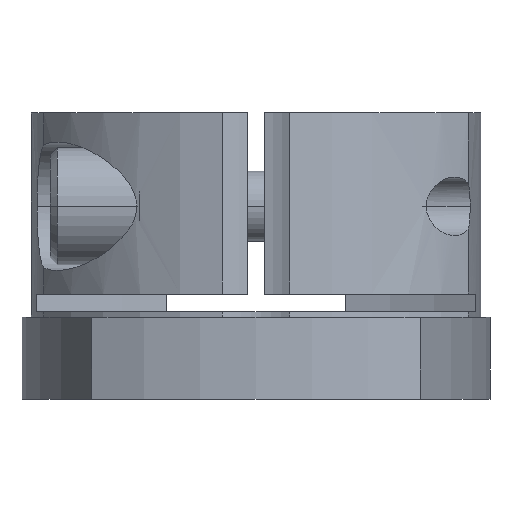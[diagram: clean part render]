
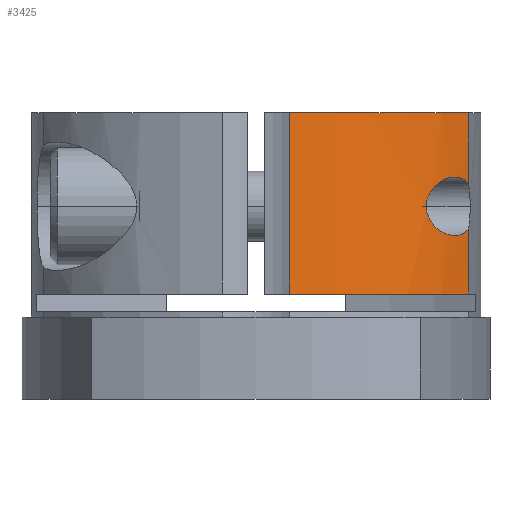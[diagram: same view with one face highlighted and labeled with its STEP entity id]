
A CAD part, front view. The second image highlights one B-rep face of the part: STEP entity #3425.
In plain terms, the highlighted cylindrical face has radius 22 mm (diameter 44 mm), a partial arc.
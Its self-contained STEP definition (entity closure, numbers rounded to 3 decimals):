
#801=CARTESIAN_POINT('',(18.151,-12.431,14.946));
#802=VERTEX_POINT('',#801);
#818=CARTESIAN_POINT('',(14.552,-16.5,13.0));
#819=VERTEX_POINT('',#818);
#820=CARTESIAN_POINT('',(14.552,-16.5,13.0));
#821=CARTESIAN_POINT('',(14.552,-16.5,13.158));
#822=CARTESIAN_POINT('',(14.569,-16.485,13.318));
#823=CARTESIAN_POINT('',(14.636,-16.425,13.628));
#824=CARTESIAN_POINT('',(14.687,-16.38,13.78));
#825=CARTESIAN_POINT('',(14.812,-16.267,14.065));
#826=CARTESIAN_POINT('',(14.887,-16.199,14.199));
#827=CARTESIAN_POINT('',(15.051,-16.046,14.443));
#828=CARTESIAN_POINT('',(15.14,-15.962,14.554));
#829=CARTESIAN_POINT('',(15.477,-15.639,14.922));
#830=CARTESIAN_POINT('',(15.775,-15.341,15.139));
#831=CARTESIAN_POINT('',(16.23,-14.853,15.357));
#832=CARTESIAN_POINT('',(16.384,-14.684,15.411));
#833=CARTESIAN_POINT('',(16.685,-14.341,15.483));
#834=CARTESIAN_POINT('',(16.832,-14.168,15.5));
#835=CARTESIAN_POINT('',(17.096,-13.847,15.5));
#836=CARTESIAN_POINT('',(17.225,-13.687,15.486));
#837=CARTESIAN_POINT('',(17.479,-13.361,15.423));
#838=CARTESIAN_POINT('',(17.604,-13.196,15.374));
#839=CARTESIAN_POINT('',(17.841,-12.874,15.239));
#840=CARTESIAN_POINT('',(17.953,-12.717,15.153));
#841=CARTESIAN_POINT('',(18.088,-12.523,15.018));
#842=CARTESIAN_POINT('',(18.12,-12.476,14.983));
#843=CARTESIAN_POINT('',(18.151,-12.431,14.946));
#844=B_SPLINE_CURVE_WITH_KNOTS('',3,(#820,#821,#822,#823,#824,#825,#826,#827,#828,#829,#830,#831,#832,#833,#834,#835,#836,#837,#838,#839,#840,#841,#842,#843),.UNSPECIFIED.,.F.,.U.,(4,2,2,2,2,2,2,2,2,2,2,4),(8.745,9.219,9.693,10.167,10.641,11.952,12.607,13.262,13.856,14.449,15.043,15.234),.UNSPECIFIED.);
#845=EDGE_CURVE('',#819,#802,#844,.T.);
#2433=CARTESIAN_POINT('',(18.151,-12.431,11.054));
#2434=VERTEX_POINT('',#2433);
#2435=CARTESIAN_POINT('',(18.151,-12.431,11.054));
#2436=CARTESIAN_POINT('',(18.12,-12.476,11.017));
#2437=CARTESIAN_POINT('',(18.088,-12.523,10.982));
#2438=CARTESIAN_POINT('',(17.953,-12.717,10.847));
#2439=CARTESIAN_POINT('',(17.841,-12.874,10.761));
#2440=CARTESIAN_POINT('',(17.604,-13.196,10.626));
#2441=CARTESIAN_POINT('',(17.479,-13.361,10.577));
#2442=CARTESIAN_POINT('',(17.225,-13.687,10.514));
#2443=CARTESIAN_POINT('',(17.096,-13.847,10.5));
#2444=CARTESIAN_POINT('',(16.832,-14.168,10.5));
#2445=CARTESIAN_POINT('',(16.685,-14.341,10.517));
#2446=CARTESIAN_POINT('',(16.384,-14.684,10.589));
#2447=CARTESIAN_POINT('',(16.23,-14.853,10.643));
#2448=CARTESIAN_POINT('',(15.775,-15.341,10.861));
#2449=CARTESIAN_POINT('',(15.477,-15.639,11.078));
#2450=CARTESIAN_POINT('',(15.14,-15.962,11.446));
#2451=CARTESIAN_POINT('',(15.051,-16.046,11.557));
#2452=CARTESIAN_POINT('',(14.887,-16.199,11.801));
#2453=CARTESIAN_POINT('',(14.812,-16.267,11.935));
#2454=CARTESIAN_POINT('',(14.687,-16.38,12.22));
#2455=CARTESIAN_POINT('',(14.636,-16.425,12.372));
#2456=CARTESIAN_POINT('',(14.569,-16.485,12.682));
#2457=CARTESIAN_POINT('',(14.552,-16.5,12.842));
#2458=CARTESIAN_POINT('',(14.552,-16.5,13.0));
#2459=B_SPLINE_CURVE_WITH_KNOTS('',3,(#2435,#2436,#2437,#2438,#2439,#2440,#2441,#2442,#2443,#2444,#2445,#2446,#2447,#2448,#2449,#2450,#2451,#2452,#2453,#2454,#2455,#2456,#2457,#2458),.UNSPECIFIED.,.F.,.U.,(4,2,2,2,2,2,2,2,2,2,2,4),(2.255,2.447,3.04,3.634,4.227,4.882,5.537,6.848,7.322,7.796,8.27,8.745),.UNSPECIFIED.);
#2460=EDGE_CURVE('',#2434,#819,#2459,.T.);
#2547=CARTESIAN_POINT('',(18.151,-12.431,21.0));
#2548=VERTEX_POINT('',#2547);
#2556=CARTESIAN_POINT('',(18.151,-12.431,14.946));
#2557=DIRECTION('',(0.0,0.0,1.0));
#2558=VECTOR('',#2557,6.054);
#2559=LINE('',#2556,#2558);
#2560=EDGE_CURVE('',#802,#2548,#2559,.T.);
#2564=CARTESIAN_POINT('',(18.151,-12.431,5.5));
#2565=VERTEX_POINT('',#2564);
#2566=CARTESIAN_POINT('',(18.151,-12.431,5.5));
#2567=DIRECTION('',(0.0,0.0,1.0));
#2568=VECTOR('',#2567,5.554);
#2569=LINE('',#2566,#2568);
#2570=EDGE_CURVE('',#2565,#2434,#2569,.T.);
#2786=CARTESIAN_POINT('',(2.875,-21.811,21.0));
#2787=VERTEX_POINT('',#2786);
#2788=CARTESIAN_POINT('',(2.875,-21.811,5.5));
#2789=VERTEX_POINT('',#2788);
#2790=CARTESIAN_POINT('',(2.875,-21.811,21.0));
#2791=DIRECTION('',(0.0,0.0,-1.0));
#2792=VECTOR('',#2791,15.5);
#2793=LINE('',#2790,#2792);
#2794=EDGE_CURVE('',#2787,#2789,#2793,.T.);
#3172=CARTESIAN_POINT('',(0.,0.,21.0));
#3173=DIRECTION('',(0.0,0.0,-1.0));
#3174=DIRECTION('',(1.0,0.0,0.0));
#3175=AXIS2_PLACEMENT_3D('',#3172,#3173,#3174);
#3176=CIRCLE('',#3175,22.);
#3177=EDGE_CURVE('',#2548,#2787,#3176,.T.);
#3405=CARTESIAN_POINT('',(0.,0.,-3.5));
#3406=DIRECTION('',(0.0,0.0,1.0));
#3407=DIRECTION('',(1.0,0.0,0.0));
#3408=AXIS2_PLACEMENT_3D('',#3405,#3406,#3407);
#3409=CYLINDRICAL_SURFACE('',#3408,22.);
#3410=ORIENTED_EDGE('',*,*,#2460,.T.);
#3411=ORIENTED_EDGE('',*,*,#845,.T.);
#3412=ORIENTED_EDGE('',*,*,#2560,.T.);
#3413=ORIENTED_EDGE('',*,*,#3177,.T.);
#3414=ORIENTED_EDGE('',*,*,#2794,.T.);
#3415=CARTESIAN_POINT('',(0.,0.,5.5));
#3416=DIRECTION('',(0.0,0.0,1.0));
#3417=DIRECTION('',(1.0,0.0,0.0));
#3418=AXIS2_PLACEMENT_3D('',#3415,#3416,#3417);
#3419=CIRCLE('',#3418,22.);
#3420=EDGE_CURVE('',#2789,#2565,#3419,.T.);
#3421=ORIENTED_EDGE('',*,*,#3420,.T.);
#3422=ORIENTED_EDGE('',*,*,#2570,.T.);
#3423=EDGE_LOOP('',(#3410,#3411,#3412,#3413,#3414,#3421,#3422));
#3424=FACE_OUTER_BOUND('',#3423,.T.);
#3425=ADVANCED_FACE('',(#3424),#3409,.T.);
